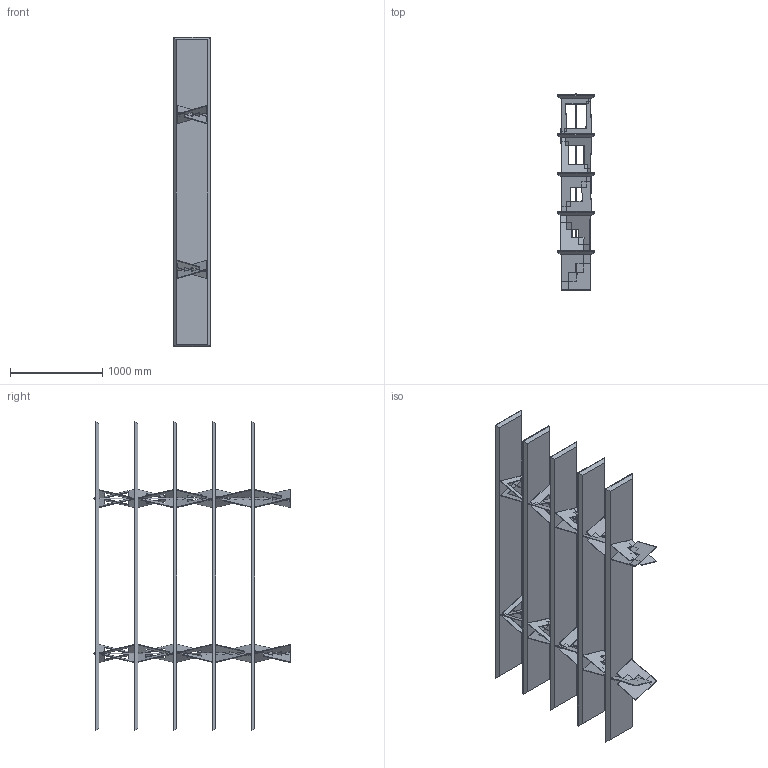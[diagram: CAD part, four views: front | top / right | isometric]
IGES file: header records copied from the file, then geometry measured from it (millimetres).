
Start section: SolidWorks IGES file using analytic representation for surfaces
Global section: file name: C:\Users\Matteo\Desktop\_Horm\Dror\_file tecnici per listino\QuaDror 04\QuaDror 04.IGS; native system: SolidWorks 2010; preprocessor: SolidWorks 2010; author: Matteo; date: 151117.145549; units: millimetre
Bounding box: 400 x 2120.86 x 3350 mm (x, y, z)
Surface area: 18713431.8 mm2 (no closed solid volume)
Topology: 0 solids, 0 shells, 692 faces, 7480 edges, 7520 vertices
Faces by surface type: bspline 486, revolution 206
